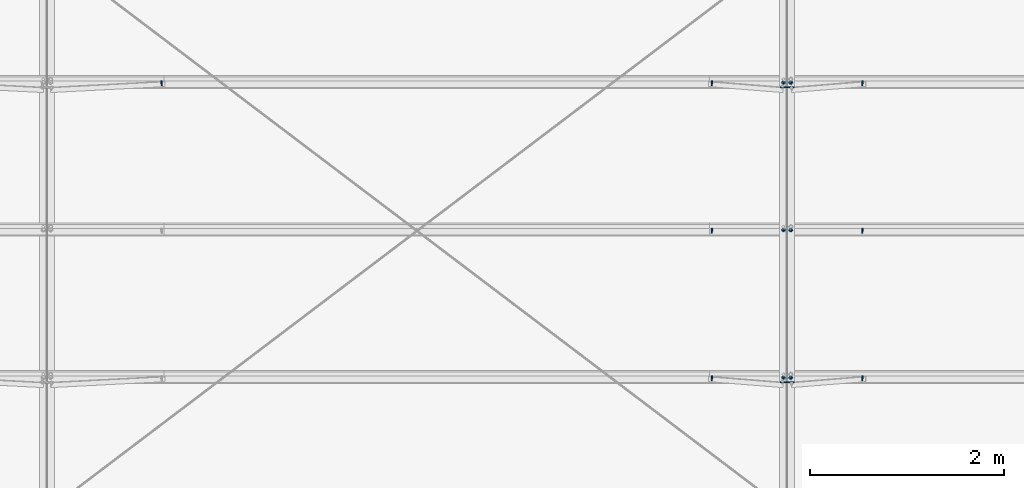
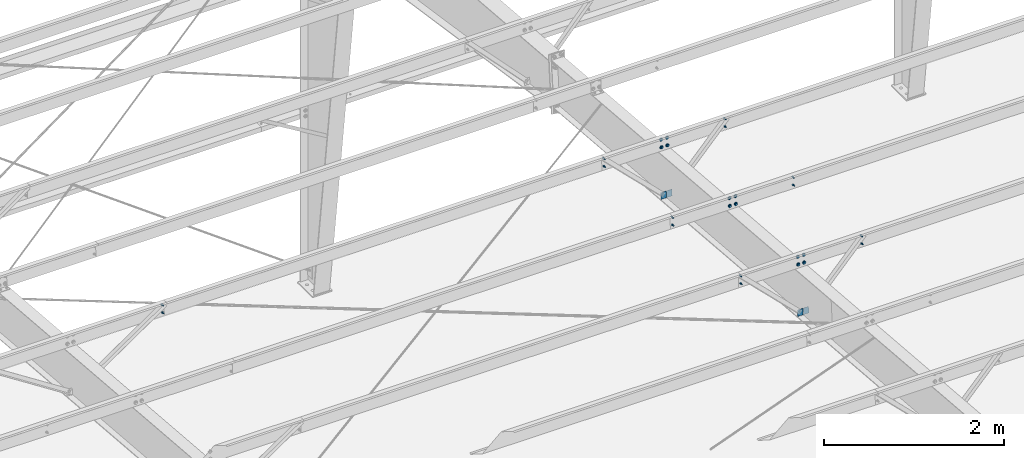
# One storey, part 83 of 185: 13 mechanical fasteners, 4 discrete accessories, 8 elements without a shape of their own.
"""IFC2X3 building model written with IfcOpenShell, lengths in millimetres."""

from ifc_helpers import new_model, si_unit, frame, origin_with_axes, origin_2d_with_axis, place, context, subcontext, project, spatial, polyline, rectangle, circle, outline, extrude, source, transform, mapped, material, type_object, element, aggregate, save


model = new_model("IFC2X3")

# Units and contexts
model_context = context("Model", 3, precision=1e-05, world=origin_with_axes())
body_context = subcontext(model_context, "Body", "Model", "MODEL_VIEW")
ifc_project = project(units=[si_unit("LENGTHUNIT", "METRE", prefix="MILLI"), si_unit("AREAUNIT", "SQUARE_METRE"), si_unit("VOLUMEUNIT", "CUBIC_METRE"), si_unit("MASSUNIT", "GRAM", prefix="KILO"), si_unit("TIMEUNIT", "SECOND"), si_unit("PLANEANGLEUNIT", "RADIAN"), si_unit("SOLIDANGLEUNIT", "STERADIAN"), si_unit("THERMODYNAMICTEMPERATUREUNIT", "DEGREE_CELSIUS"), si_unit("LUMINOUSINTENSITYUNIT", "LUMEN")], contexts=[model_context])

# Site, building, storey
site_placement = place(None, origin_with_axes())
site = spatial("IfcSite", under=ifc_project, at=site_placement, Name="Undefined", CompositionType="ELEMENT")
building_placement = place(site_placement, origin_with_axes())
building = spatial("IfcBuilding", under=site, at=building_placement, Name="Undefined", CompositionType="ELEMENT")
storey_placement = place(building_placement, origin_with_axes())
storey = spatial("IfcBuildingStorey", under=building, at=storey_placement, Name="Undefined", CompositionType="ELEMENT", Elevation=0.0)

# Assembly, mechanical fastener
assembly_1_placement = place(storey_placement, origin_with_axes())
assembly_1 = element("IfcElementAssembly", 1, at=assembly_1_placement, inside=storey, Name="Steel Assembly", AssemblyPlace="NOTDEFINED", PredefinedType="RIGID_FRAME")
ifc_material_1 = material(Name="Undefined")
discrete_accessory_type_1 = type_object("IfcDiscreteAccessoryType", Name="Bolt assembly")
shared_shape_1 = source(origin_with_axes(), body_context, "Body", "SweptSolid", [
    extrude(circle(Radius=7.14374971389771, at=origin_2d_with_axis()), frame((0.0, -1.59000001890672, 0.0), z_axis=(0.0, 1.0, 0.0), x_axis=(1.0, 0.0, 0.0)), (0.0, 0.0, 1.0), 3.3),
    extrude(circle(Radius=13.4937496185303, at=origin_2d_with_axis()), frame((0.0, -5.5587500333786, 0.0), z_axis=(0.0, 1.0, 0.0), x_axis=(1.0, 0.0, 0.0)), (0.0, 0.0, 1.0), 4.0),
    extrude(circle(Radius=22.2250003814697, at=origin_2d_with_axis()), frame((0.0, 1.5900000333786, 0.0), z_axis=(0.0, 1.0, 0.0), x_axis=(1.0, 0.0, 0.0)), (0.0, 0.0, 1.0), 7.9),
    extrude(outline(polyline([(12.8316099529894, 0.0), (6.4158049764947, 11.1125001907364), (-6.4158049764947, 11.1125001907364), (-12.8316099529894, 0.0), (-6.4158049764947, -11.1125001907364), (6.4158049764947, -11.1125001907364), (12.8316099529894, 0.0)])), frame((0.0, 9.5275000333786, 0.0), z_axis=(0.0, 1.0, 0.0), x_axis=(1.0, 0.0, 0.0)), (0.0, 0.0, 1.0), 12.3),
])
mechanical_fastener_1_placement = place(assembly_1_placement, frame((14820.9, 23895.2066900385, 6720.75669348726), z_axis=(-1.0, 0.0, 0.0), x_axis=(0.0, -0.0830454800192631, -0.996545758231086)))
mechanical_fastener_1 = element("IfcMechanicalFastener", 2, at=mechanical_fastener_1_placement, type_object=discrete_accessory_type_1, material=ifc_material_1, Name="Bolt assembly", NominalDiameter=12.6999998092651, NominalLength=38.0999984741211, context=body_context, shape_type="MappedRepresentation", body=[
    mapped(shared_shape_1, transform((0.0, 0.0, 0.0))),
    mapped(shared_shape_1, transform((101.599998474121, 0.0, 0.0))),
])
aggregate(assembly_1, [mechanical_fastener_1])

assembly_2_placement = place(storey_placement, origin_with_axes())
assembly_2 = element("IfcElementAssembly", 3, at=assembly_2_placement, inside=storey, Name="Steel Assembly", AssemblyPlace="NOTDEFINED", PredefinedType="RIGID_FRAME")
mechanical_fastener_2_placement = place(assembly_2_placement, frame((14897.1, 23895.2066900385, 6720.75669348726), z_axis=(-1.0, 0.0, 0.0), x_axis=(0.0, -0.0830454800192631, -0.996545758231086)))
mechanical_fastener_2 = element("IfcMechanicalFastener", 4, at=mechanical_fastener_2_placement, type_object=discrete_accessory_type_1, material=ifc_material_1, Name="Bolt assembly", NominalDiameter=12.6999998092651, NominalLength=38.0999984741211, context=body_context, shape_type="MappedRepresentation", body=[
    mapped(shared_shape_1, transform((0.0, 0.0, 0.0))),
    mapped(shared_shape_1, transform((101.599998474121, 0.0, 0.0))),
])

assembly_3_placement = place(storey_placement, origin_with_axes())
assembly_3 = element("IfcElementAssembly", 5, at=assembly_3_placement, inside=storey, Name="Steel Assembly", AssemblyPlace="NOTDEFINED", PredefinedType="RIGID_FRAME")
mechanical_fastener_3_placement = place(assembly_3_placement, frame((14820.9, 22376.4709544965, 6847.31800504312), z_axis=(-1.0, 0.0, 0.0), x_axis=(0.0, -0.0830454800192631, -0.996545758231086)))
mechanical_fastener_3 = element("IfcMechanicalFastener", 6, at=mechanical_fastener_3_placement, type_object=discrete_accessory_type_1, material=ifc_material_1, Name="Bolt assembly", NominalDiameter=12.6999998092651, NominalLength=38.0999984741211, context=body_context, shape_type="MappedRepresentation", body=[
    mapped(shared_shape_1, transform((0.0, 0.0, 0.0))),
    mapped(shared_shape_1, transform((101.599998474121, 0.0, 0.0))),
])
aggregate(assembly_3, [mechanical_fastener_3])

assembly_4_placement = place(storey_placement, origin_with_axes())
assembly_4 = element("IfcElementAssembly", 7, at=assembly_4_placement, inside=storey, Name="Steel Assembly", AssemblyPlace="NOTDEFINED", PredefinedType="RIGID_FRAME")
mechanical_fastener_4_placement = place(assembly_4_placement, frame((14897.1, 22376.4709544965, 6847.31800504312), z_axis=(-1.0, 0.0, 0.0), x_axis=(0.0, -0.0830454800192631, -0.996545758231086)))
mechanical_fastener_4 = element("IfcMechanicalFastener", 8, at=mechanical_fastener_4_placement, type_object=discrete_accessory_type_1, material=ifc_material_1, Name="Bolt assembly", NominalDiameter=12.6999998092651, NominalLength=38.0999984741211, context=body_context, shape_type="MappedRepresentation", body=[
    mapped(shared_shape_1, transform((0.0, 0.0, 0.0))),
    mapped(shared_shape_1, transform((101.599998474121, 0.0, 0.0))),
])

assembly_5_placement = place(storey_placement, origin_with_axes())
assembly_5 = element("IfcElementAssembly", 9, at=assembly_5_placement, inside=storey, Name="Steel Assembly", AssemblyPlace="NOTDEFINED", PredefinedType="RIGID_FRAME")
mechanical_fastener_5_placement = place(assembly_5_placement, frame((14820.9, 20857.7352189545, 6973.87931659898), z_axis=(-1.0, 0.0, 0.0), x_axis=(0.0, -0.0830454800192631, -0.996545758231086)))
mechanical_fastener_5 = element("IfcMechanicalFastener", 10, at=mechanical_fastener_5_placement, type_object=discrete_accessory_type_1, material=ifc_material_1, Name="Bolt assembly", NominalDiameter=12.6999998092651, NominalLength=38.0999984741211, context=body_context, shape_type="MappedRepresentation", body=[
    mapped(shared_shape_1, transform((0.0, 0.0, 0.0))),
    mapped(shared_shape_1, transform((101.599998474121, 0.0, 0.0))),
])
aggregate(assembly_5, [mechanical_fastener_5])

assembly_6_placement = place(storey_placement, origin_with_axes())
assembly_6 = element("IfcElementAssembly", 11, at=assembly_6_placement, inside=storey, Name="Steel Assembly", AssemblyPlace="NOTDEFINED", PredefinedType="RIGID_FRAME")
mechanical_fastener_6_placement = place(assembly_6_placement, frame((14897.1, 20857.7352189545, 6973.87931659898), z_axis=(-1.0, 0.0, 0.0), x_axis=(0.0, -0.0830454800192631, -0.996545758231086)))
mechanical_fastener_6 = element("IfcMechanicalFastener", 12, at=mechanical_fastener_6_placement, type_object=discrete_accessory_type_1, material=ifc_material_1, Name="Bolt assembly", NominalDiameter=12.6999998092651, NominalLength=38.0999984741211, context=body_context, shape_type="MappedRepresentation", body=[
    mapped(shared_shape_1, transform((0.0, 0.0, 0.0))),
    mapped(shared_shape_1, transform((101.599998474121, 0.0, 0.0))),
])

# Assembly, discrete accessories
assembly_7_placement = place(storey_placement, origin_with_axes())
assembly_7 = element("IfcElementAssembly", 13, at=assembly_7_placement, inside=storey, Name="Steel Assembly", AssemblyPlace="NOTDEFINED", PredefinedType="RIGID_FRAME")
ifc_material_2 = material(Name="STEEL/55")
discrete_accessory_type_2 = type_object("IfcDiscreteAccessoryType", Name="FLANGE BRACE FLIP")
discrete_accessory_1_placement = place(assembly_7_placement, frame((14857.29185, 23836.5274434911, 5996.03869127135), z_axis=(0.0, 0.0830454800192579, 0.996545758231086), x_axis=(-1.0, 0.0, 0.0)))
discrete_accessory_1 = element("IfcDiscreteAccessory", 14, at=discrete_accessory_1_placement, type_object=discrete_accessory_type_2, material=ifc_material_2, Name="FLANGE BRACE FLIP", ObjectType="PL1/8\"X2 3/4\"", context=body_context, shape_type="SweptSolid", body=[
    extrude(rectangle(XDim=3.416, YDim=85.725, at=origin_2d_with_axis()), frame((69.8499999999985, 0.0, 0.0), z_axis=(-1.0, 0.0, 0.0), x_axis=(0.0, -1.0, 0.0)), (0.0, 0.0, 1.0), 69.9),
])
discrete_accessory_2_placement = place(assembly_7_placement, frame((14860.70815, 23836.5274434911, 5996.03869127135), z_axis=(0.0, 0.0830454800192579, 0.996545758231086), x_axis=(1.0, 0.0, 0.0)))
discrete_accessory_2 = element("IfcDiscreteAccessory", 15, at=discrete_accessory_2_placement, type_object=discrete_accessory_type_2, material=ifc_material_2, Name="FLANGE BRACE FLIP", ObjectType="PL1/8\"X2 3/4\"", context=body_context, shape_type="SweptSolid", body=[
    extrude(rectangle(XDim=3.416, YDim=85.725, at=origin_2d_with_axis()), frame((69.8499999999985, 0.0, 0.0), z_axis=(-1.0, 0.0, 0.0), x_axis=(0.0, -1.0, 0.0)), (0.0, 0.0, 1.0), 69.9),
])
discrete_accessory_3_placement = place(assembly_7_placement, frame((14857.29185, 20799.0559723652, 6249.16131387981), z_axis=(0.0, 0.0830454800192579, 0.996545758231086), x_axis=(-1.0, 0.0, 0.0)))
discrete_accessory_3 = element("IfcDiscreteAccessory", 16, at=discrete_accessory_3_placement, type_object=discrete_accessory_type_2, material=ifc_material_2, Name="FLANGE BRACE FLIP", ObjectType="PL1/8\"X2 3/4\"", context=body_context, shape_type="SweptSolid", body=[
    extrude(rectangle(XDim=3.416, YDim=85.725, at=origin_2d_with_axis()), frame((69.8499999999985, 0.0, 0.0), z_axis=(-1.0, 0.0, 0.0), x_axis=(0.0, -1.0, 0.0)), (0.0, 0.0, 1.0), 69.9),
])
discrete_accessory_4_placement = place(assembly_7_placement, frame((14860.70815, 20799.0559723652, 6249.16131387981), z_axis=(0.0, 0.0830454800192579, 0.996545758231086), x_axis=(1.0, 0.0, 0.0)))
discrete_accessory_4 = element("IfcDiscreteAccessory", 17, at=discrete_accessory_4_placement, type_object=discrete_accessory_type_2, material=ifc_material_2, Name="FLANGE BRACE FLIP", ObjectType="PL1/8\"X2 3/4\"", context=body_context, shape_type="SweptSolid", body=[
    extrude(rectangle(XDim=3.416, YDim=85.725, at=origin_2d_with_axis()), frame((69.8499999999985, 0.0, 0.0), z_axis=(-1.0, 0.0, 0.0), x_axis=(0.0, -1.0, 0.0)), (0.0, 0.0, 1.0), 69.9),
])
aggregate(assembly_7, [discrete_accessory_1, discrete_accessory_2, discrete_accessory_3, discrete_accessory_4])

# Assembly, mechanical fastener
assembly_8_placement = place(storey_placement, origin_with_axes())
assembly_8 = element("IfcElementAssembly", 18, at=assembly_8_placement, inside=storey, Name="Steel Assembly", AssemblyPlace="NOTDEFINED", PredefinedType="RIGID_FRAME")
shared_shape_2 = source(origin_with_axes(), body_context, "Body", "SweptSolid", [
    extrude(circle(Radius=7.14374971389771, at=origin_2d_with_axis()), frame((0.0, -1.4900000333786, 0.0), z_axis=(0.0, 1.0, 0.0), x_axis=(1.0, 0.0, 0.0)), (0.0, 0.0, 1.0), 3.2),
    extrude(circle(Radius=7.14374971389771, at=origin_2d_with_axis()), frame((0.0, -1.4900000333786, 0.0), z_axis=(0.0, 1.0, 0.0), x_axis=(1.0, 0.0, 0.0)), (0.0, 0.0, 1.0), 3.2),
    extrude(outline(polyline([(10.9985221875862, 0.0), (5.4992610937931, 9.52499961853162), (-5.4992610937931, 9.52499961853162), (-10.9985221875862, 0.0), (-5.4992610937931, -9.52499961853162), (5.4992610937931, -9.52499961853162), (10.9985221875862, 0.0)])), frame((0.0, -11.1149996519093, 0.0), z_axis=(0.0, 1.0, 0.0), x_axis=(1.0, 0.0, 0.0)), (0.0, 0.0, 1.0), 9.5),
    extrude(circle(Radius=6.34999990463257, at=origin_2d_with_axis()), frame((0.0, -1.59000001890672, 0.0), z_axis=(0.0, 1.0, 0.0), x_axis=(1.0, 0.0, 0.0)), (0.0, 0.0, 1.0), 38.1),
    extrude(outline(polyline([(12.8316099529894, 0.0), (6.4158049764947, 11.1125001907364), (-6.4158049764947, 11.1125001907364), (-12.8316099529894, 0.0), (-6.4158049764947, -11.1125001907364), (6.4158049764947, -11.1125001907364), (12.8316099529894, 0.0)])), frame((0.0, 1.5900000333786, 0.0), z_axis=(0.0, 1.0, 0.0), x_axis=(1.0, 0.0, 0.0)), (0.0, 0.0, 1.0), 12.3),
])
mechanical_fastener_7_placement = place(assembly_8_placement, frame((8420.1, 23895.2066900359, 6720.75669347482), z_axis=(-1.0, 0.0, 0.0), x_axis=(0.0, -0.0830454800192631, -0.996545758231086)))
mechanical_fastener_7 = element("IfcMechanicalFastener", 19, at=mechanical_fastener_7_placement, type_object=discrete_accessory_type_1, material=ifc_material_1, Name="Bolt assembly", NominalDiameter=12.6999998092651, NominalLength=38.0999984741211, context=body_context, shape_type="MappedRepresentation", body=[
    mapped(shared_shape_2, transform((0.0, 0.0, 0.0))),
    mapped(shared_shape_2, transform((101.599998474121, 0.0, 0.0))),
])
aggregate(assembly_8, [mechanical_fastener_7])

# Mechanical fastener
mechanical_fastener_8_placement = place(assembly_2_placement, frame((14084.3, 23895.2066900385, 6720.75669348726), z_axis=(-1.0, 0.0, 0.0), x_axis=(0.0, -0.0830454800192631, -0.996545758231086)))
mechanical_fastener_8 = element("IfcMechanicalFastener", 20, at=mechanical_fastener_8_placement, type_object=discrete_accessory_type_1, material=ifc_material_1, Name="Bolt assembly", NominalDiameter=12.6999998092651, NominalLength=38.0999984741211, context=body_context, shape_type="MappedRepresentation", body=[
    mapped(shared_shape_2, transform((0.0, 0.0, 0.0))),
    mapped(shared_shape_2, transform((101.599998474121, 0.0, 0.0))),
])

mechanical_fastener_9_placement = place(assembly_2_placement, frame((15633.7, 23895.2066900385, 6720.75669348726), z_axis=(-1.0, 0.0, 0.0), x_axis=(0.0, -0.0830454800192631, -0.996545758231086)))
mechanical_fastener_9 = element("IfcMechanicalFastener", 21, at=mechanical_fastener_9_placement, type_object=discrete_accessory_type_1, material=ifc_material_1, Name="Bolt assembly", NominalDiameter=12.6999998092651, NominalLength=38.0999984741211, context=body_context, shape_type="MappedRepresentation", body=[
    mapped(shared_shape_2, transform((0.0, 0.0, 0.0))),
    mapped(shared_shape_2, transform((101.599998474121, 0.0, 0.0))),
])

aggregate(assembly_2, [mechanical_fastener_2, mechanical_fastener_8, mechanical_fastener_9])

mechanical_fastener_10_placement = place(assembly_4_placement, frame((14084.3, 22376.4709544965, 6847.31800504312), z_axis=(-1.0, 0.0, 0.0), x_axis=(0.0, -0.0830454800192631, -0.996545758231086)))
mechanical_fastener_10 = element("IfcMechanicalFastener", 22, at=mechanical_fastener_10_placement, type_object=discrete_accessory_type_1, material=ifc_material_1, Name="Bolt assembly", NominalDiameter=12.6999998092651, NominalLength=38.0999984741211, context=body_context, shape_type="MappedRepresentation", body=[
    mapped(shared_shape_2, transform((0.0, 0.0, 0.0))),
    mapped(shared_shape_2, transform((101.599998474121, 0.0, 0.0))),
])

mechanical_fastener_11_placement = place(assembly_4_placement, frame((15633.7, 22376.4709544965, 6847.31800504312), z_axis=(-1.0, 0.0, 0.0), x_axis=(0.0, -0.0830454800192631, -0.996545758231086)))
mechanical_fastener_11 = element("IfcMechanicalFastener", 23, at=mechanical_fastener_11_placement, type_object=discrete_accessory_type_1, material=ifc_material_1, Name="Bolt assembly", NominalDiameter=12.6999998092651, NominalLength=38.0999984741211, context=body_context, shape_type="MappedRepresentation", body=[
    mapped(shared_shape_2, transform((0.0, 0.0, 0.0))),
    mapped(shared_shape_2, transform((101.599998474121, 0.0, 0.0))),
])

aggregate(assembly_4, [mechanical_fastener_4, mechanical_fastener_10, mechanical_fastener_11])

mechanical_fastener_12_placement = place(assembly_6_placement, frame((14084.3, 20857.7352189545, 6973.87931659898), z_axis=(-1.0, 0.0, 0.0), x_axis=(0.0, -0.0830454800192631, -0.996545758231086)))
mechanical_fastener_12 = element("IfcMechanicalFastener", 24, at=mechanical_fastener_12_placement, type_object=discrete_accessory_type_1, material=ifc_material_1, Name="Bolt assembly", NominalDiameter=12.6999998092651, NominalLength=38.0999984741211, context=body_context, shape_type="MappedRepresentation", body=[
    mapped(shared_shape_2, transform((0.0, 0.0, 0.0))),
    mapped(shared_shape_2, transform((101.599998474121, 0.0, 0.0))),
])

mechanical_fastener_13_placement = place(assembly_6_placement, frame((15633.7, 20857.7352189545, 6973.87931659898), z_axis=(-1.0, 0.0, 0.0), x_axis=(0.0, -0.0830454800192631, -0.996545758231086)))
mechanical_fastener_13 = element("IfcMechanicalFastener", 25, at=mechanical_fastener_13_placement, type_object=discrete_accessory_type_1, material=ifc_material_1, Name="Bolt assembly", NominalDiameter=12.6999998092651, NominalLength=38.0999984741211, context=body_context, shape_type="MappedRepresentation", body=[
    mapped(shared_shape_2, transform((0.0, 0.0, 0.0))),
    mapped(shared_shape_2, transform((101.599998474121, 0.0, 0.0))),
])

aggregate(assembly_6, [mechanical_fastener_6, mechanical_fastener_12, mechanical_fastener_13])

save(model, "model.ifc")
